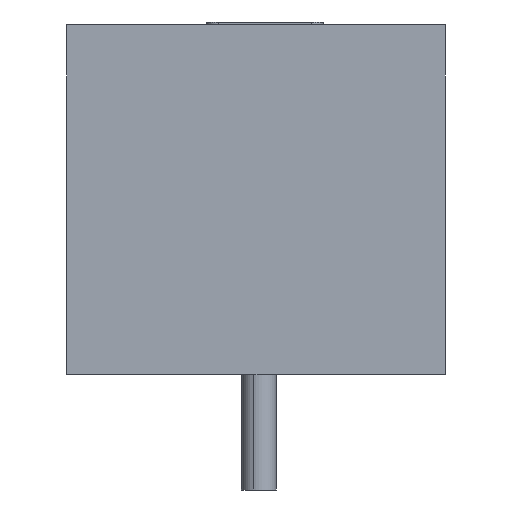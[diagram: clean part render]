
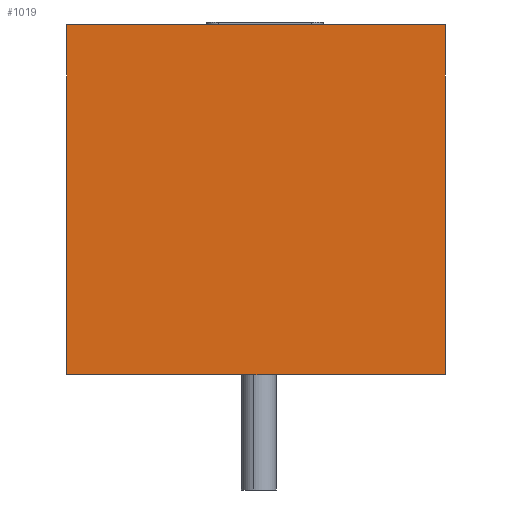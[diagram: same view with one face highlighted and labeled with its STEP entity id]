
A CAD part, left-side view. The second image highlights one B-rep face of the part: STEP entity #1019.
In plain terms, the highlighted planar face has unit normal (-1, 0, 0).
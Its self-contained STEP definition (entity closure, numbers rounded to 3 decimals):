
#56 = EDGE_LOOP ( 'NONE', ( #931, #932, #933, #934 ) ) ;
#718 = VERTEX_POINT ( 'NONE', #2019 ) ;
#735 = VERTEX_POINT ( 'NONE', #2036 ) ;
#738 = VERTEX_POINT ( 'NONE', #2039 ) ;
#740 = VERTEX_POINT ( 'NONE', #2041 ) ;
#931 = ORIENTED_EDGE ( 'NONE', *, *, #1341, .F. ) ;
#932 = ORIENTED_EDGE ( 'NONE', *, *, #1342, .F. ) ;
#933 = ORIENTED_EDGE ( 'NONE', *, *, #1343, .T. ) ;
#934 = ORIENTED_EDGE ( 'NONE', *, *, #1073, .T. ) ;
#1019 = ADVANCED_FACE ( 'NONE', ( #2424 ), #2425, .T. ) ;
#1073 = EDGE_CURVE ( 'NONE', #735, #718, #2633, .T. ) ;
#1341 = EDGE_CURVE ( 'NONE', #738, #718, #2662, .T. ) ;
#1342 = EDGE_CURVE ( 'NONE', #740, #738, #2665, .T. ) ;
#1343 = EDGE_CURVE ( 'NONE', #740, #735, #2653, .T. ) ;
#2019 = CARTESIAN_POINT ( 'NONE',  ( -75.43, -9.692, 46.388 ) ) ;
#2036 = CARTESIAN_POINT ( 'NONE',  ( -75.43, -9.692, -13.612 ) ) ;
#2039 = CARTESIAN_POINT ( 'NONE',  ( -75.43, 55.308, 46.388 ) ) ;
#2041 = CARTESIAN_POINT ( 'NONE',  ( -75.43, 55.308, -13.612 ) ) ;
#2416 = CARTESIAN_POINT ( 'NONE',  ( -75.43, -9.692, -13.612 ) ) ;
#2424 = FACE_OUTER_BOUND ( 'NONE', #56, .T. ) ;
#2425 = PLANE ( 'NONE',  #2750 ) ;
#2427 = DIRECTION ( 'NONE',  ( -1., 0., 0. ) ) ;
#2428 = DIRECTION ( 'NONE',  ( 0., 0., 1. ) ) ;
#2633 = LINE ( 'NONE', #2646, #2812 ) ;
#2646 = CARTESIAN_POINT ( 'NONE',  ( -75.43, -9.692, -13.612 ) ) ;
#2648 = DIRECTION ( 'NONE',  ( 0., 0., 1. ) ) ;
#2653 = LINE ( 'NONE', #2668, #2818 ) ;
#2662 = LINE ( 'NONE', #2663, #2819 ) ;
#2663 = CARTESIAN_POINT ( 'NONE',  ( -75.43, -9.692, 46.388 ) ) ;
#2664 = DIRECTION ( 'NONE',  ( 0., -1., 0. ) ) ;
#2665 = LINE ( 'NONE', #2666, #2820 ) ;
#2666 = CARTESIAN_POINT ( 'NONE',  ( -75.43, 55.308, -13.612 ) ) ;
#2667 = DIRECTION ( 'NONE',  ( 0., 0., 1. ) ) ;
#2668 = CARTESIAN_POINT ( 'NONE',  ( -75.43, -9.692, -13.612 ) ) ;
#2750 = AXIS2_PLACEMENT_3D ( 'NONE', #2416, #2427, #2428 ) ;
#2812 = VECTOR ( 'NONE', #2648, 1000. ) ;
#2818 = VECTOR ( 'NONE', #2958, 1000. ) ;
#2819 = VECTOR ( 'NONE', #2664, 1000. ) ;
#2820 = VECTOR ( 'NONE', #2667, 1000. ) ;
#2958 = DIRECTION ( 'NONE',  ( 0., -1., 0. ) ) ;
